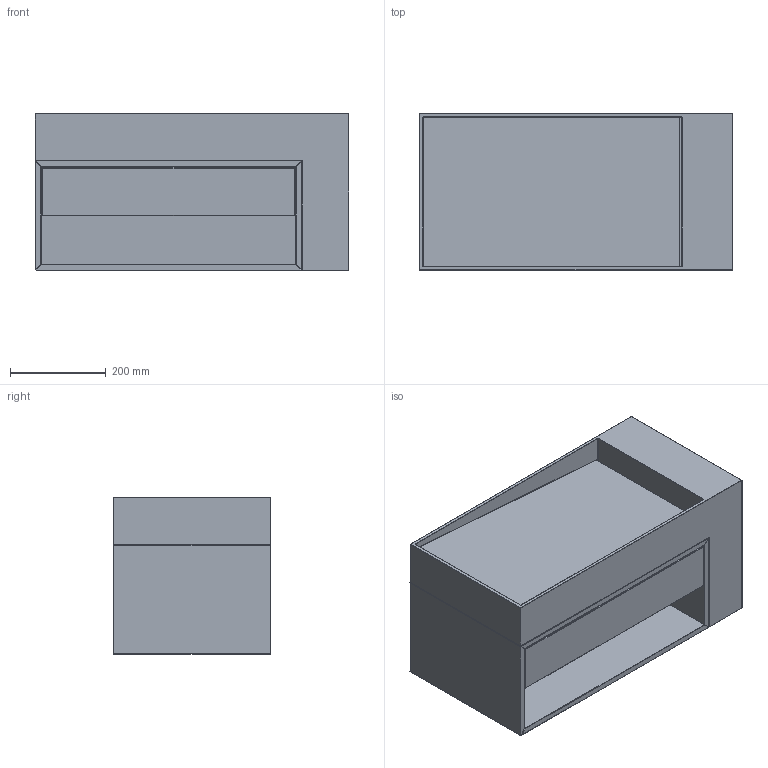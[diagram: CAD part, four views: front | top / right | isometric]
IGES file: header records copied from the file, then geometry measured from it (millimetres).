
Global section: file name: \\Archi-NAS\Comune\X GIOVANNI\SCHEDE PRODOTTO\LAVABI\SOSPESI\CUBIC XS\3D\MOMA DESIGN_LAVABI SOSPESI_CUBIC XS 4.igs; native system: Rhinoceros ( Jan 17 2018 ); preprocessor: Trout Lake IGES 012 Jan 17 2018; date: 230629.103121; units: millimetre
Bounding box: 654.59 x 327.3 x 327.3 mm (x, y, z)
Surface area: 2468839.8 mm2 (no closed solid volume)
Topology: 0 solids, 0 shells, 281 faces, 1190 edges, 1126 vertices
Faces by surface type: bspline 281
